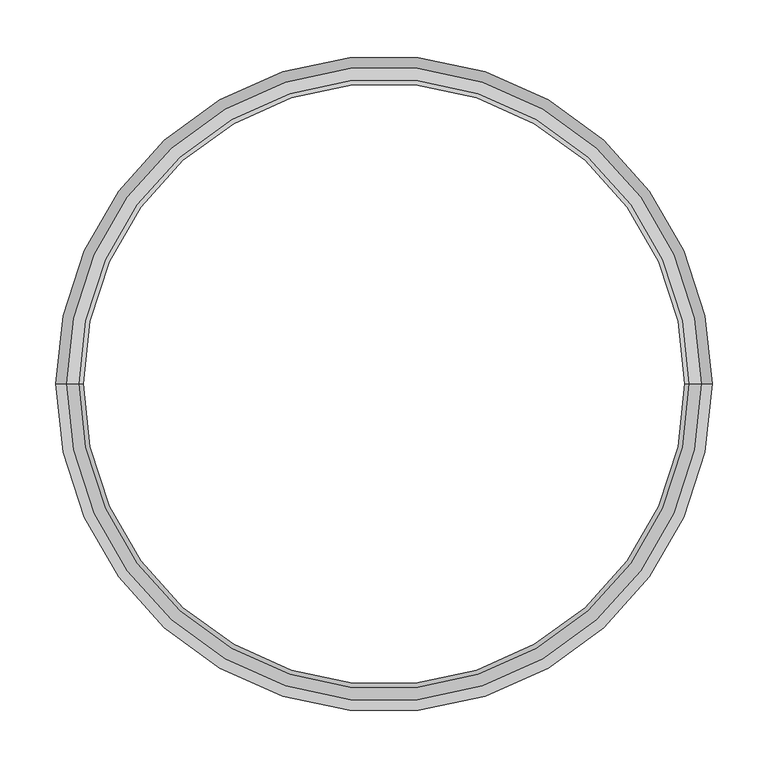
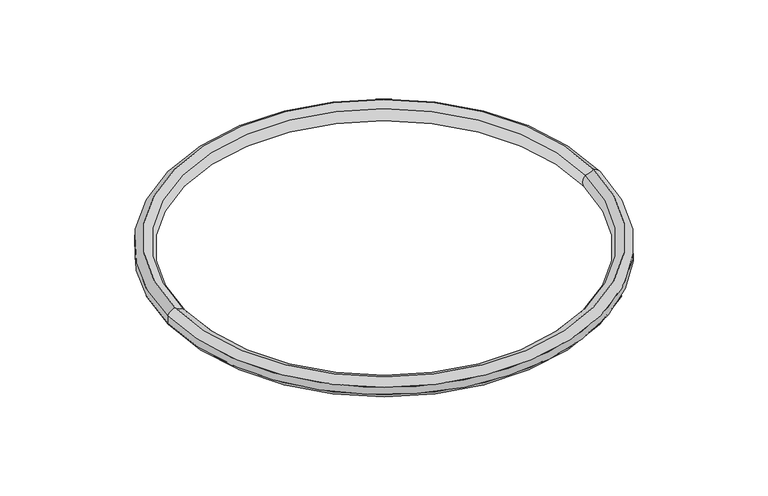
"""IFC4 building model written with IfcOpenShell, lengths in millimetres: proxy geometry, RSK C3 Chamber Ring : RSK C3 C.R."""

from ifc_helpers import new_model, si_unit, point, frame, origin, origin_with_axes, place, context, project, spatial, circle_curve, ellipse_curve, trimmed, source, transform, mapped, element, save
from ifc_brep_helpers import cylinder_surface, revolved_surface, advanced_brep


def generic_models_c2bd2e7c(model_context):
    return source(origin(), model_context, "Body", "AdvancedBrep", [
        advanced_brep(
        [(283.8795111, 0.0, -13.9713776), (273.1723142, 0.0, -8.6245409), (-273.1723142, 0.0, -8.6245409), (-283.8795111, 0.0, -13.9713776), (273.1723142, 0.0, 8.6245409), (283.8795111, 0.0, 13.9713776), (-283.8795111, 0.0, 13.9713776), (-273.1723142, 0.0, 8.6245409), (293.5, 0.0, -5.2915026), (-293.5, 0.0, -5.2915026), (293.5, 0.0, 5.2915026), (-293.5, 0.0, 5.2915026)],
        [
            (0, 1, circle_curve(frame((270.0, 0.0, -28.3713488), z_axis=(0.0, -1.0, 0.0), x_axis=(1.0, 0.0, 0.0)), 20.0)),
            (1, 2, circle_curve(frame((0.0, 0.0, -8.6245409), z_axis=(0.0, 0.0, 1.0), x_axis=(-1.0, 0.0, 0.0)), 273.1723142)),
            (2, 3, circle_curve(frame((-270.0, 0.0, -28.3713488), z_axis=(0.0, -1.0, 0.0), x_axis=(-1.0, 0.0, 0.0)), 20.0)),
            (3, 0, circle_curve(frame((0.0, 0.0, -13.9713776), z_axis=(0.0, 0.0, -1.0), x_axis=(-1.0, 0.0, 0.0)), 283.8795111)),
            (4, 5, circle_curve(frame((270.0, 0.0, 28.3713488), z_axis=(0.0, -1.0, 0.0), x_axis=(1.0, 0.0, 0.0)), 20.0)),
            (5, 6, circle_curve(frame((0.0, 0.0, 13.9713776), z_axis=(0.0, 0.0, 1.0), x_axis=(-1.0, 0.0, 0.0)), 283.8795111)),
            (6, 7, circle_curve(frame((-270.0, 0.0, 28.3713488), z_axis=(0.0, -1.0, 0.0), x_axis=(-1.0, 0.0, 0.0)), 20.0)),
            (7, 4, circle_curve(frame((0.0, 0.0, 8.6245409), z_axis=(0.0, 0.0, -1.0), x_axis=(-1.0, 0.0, 0.0)), 273.1723142)),
            (1, 4, circle_curve(frame((280.0, 0.0, 0.0), z_axis=(0.0, 1.0, 0.0), x_axis=(1.0, 0.0, 0.0)), 11.0)),
            (7, 2, circle_curve(frame((-280.0, 0.0, 0.0), z_axis=(0.0, 1.0, 0.0), x_axis=(-1.0, 0.0, 0.0)), 11.0)),
            (2, 1, circle_curve(frame((0.0, 0.0, -8.6245409), z_axis=(0.0, 0.0, 1.0), x_axis=(1.0, 0.0, 0.0)), 273.1723142)),
            (0, 3, circle_curve(frame((0.0, 0.0, -13.9713776), z_axis=(0.0, 0.0, -1.0), x_axis=(1.0, 0.0, 0.0)), 283.8795111)),
            (6, 5, circle_curve(frame((0.0, 0.0, 13.9713776), z_axis=(0.0, 0.0, 1.0), x_axis=(1.0, 0.0, 0.0)), 283.8795111)),
            (4, 7, circle_curve(frame((0.0, 0.0, 8.6245409), z_axis=(0.0, 0.0, -1.0), x_axis=(1.0, 0.0, 0.0)), 273.1723142)),
            (8, 0, circle_curve(frame((280.0, 0.0, 0.0), z_axis=(0.0, 1.0, 0.0), x_axis=(1.0, 0.0, 0.0)), 14.5)),
            (3, 9, circle_curve(frame((-280.0, 0.0, 0.0), z_axis=(0.0, 1.0, 0.0), x_axis=(-1.0, 0.0, 0.0)), 14.5)),
            (9, 8, circle_curve(frame((0.0, 0.0, -5.2915026), z_axis=(0.0, 0.0, -1.0), x_axis=(-1.0, 0.0, 0.0)), 293.5)),
            (10, 8),
            (9, 11),
            (11, 10, circle_curve(frame((0.0, 0.0, 5.2915026), z_axis=(0.0, 0.0, -1.0), x_axis=(-1.0, 0.0, 0.0)), 293.5)),
            (5, 10, circle_curve(frame((280.0, 0.0, 0.0), z_axis=(0.0, 1.0, 0.0), x_axis=(1.0, 0.0, 0.0)), 14.5)),
            (11, 6, circle_curve(frame((-280.0, 0.0, 0.0), z_axis=(0.0, 1.0, 0.0), x_axis=(-1.0, 0.0, 0.0)), 14.5)),
            (8, 9, circle_curve(frame((0.0, 0.0, -5.2915026), z_axis=(0.0, 0.0, -1.0), x_axis=(1.0, 0.0, 0.0)), 293.5)),
            (10, 11, circle_curve(frame((0.0, 0.0, 5.2915026), z_axis=(0.0, 0.0, -1.0), x_axis=(1.0, 0.0, 0.0)), 293.5)),
        ],
        [
            revolved_surface(trimmed(ellipse_curve(frame((-270.0, 0.0, -28.3713488), z_axis=(0.0, -1.0, 0.0), x_axis=(-1.0, 0.0, 0.0)), 20.0, 20.0), [point((-273.1723142, 0.0, -8.6245409))], [point((-283.8795111, 0.0, -13.9713776))], True, "CARTESIAN"), (0.0, 0.0, 0.0), (0.0, 0.0, 1.0)),
            revolved_surface(trimmed(ellipse_curve(frame((-270.0, 0.0, 28.3713488), z_axis=(0.0, -1.0, 0.0), x_axis=(-1.0, 0.0, 0.0)), 20.0, 20.0), [point((-283.8795111, 0.0, 13.9713776))], [point((-273.1723142, 0.0, 8.6245409))], True, "CARTESIAN"), (0.0, 0.0, 0.0), (0.0, 0.0, 1.0)),
            revolved_surface(trimmed(ellipse_curve(frame((-280.0, 0.0, 0.0), z_axis=(0.0, 1.0, 0.0), x_axis=(-1.0, 0.0, 0.0)), 11.0, 11.0), [point((-273.1723142, 0.0, 8.6245409))], [point((-273.1723142, 0.0, -8.6245409))], True, "CARTESIAN"), (0.0, 0.0, 0.0), (0.0, 0.0, 1.0)),
            revolved_surface(trimmed(ellipse_curve(frame((270.0, 0.0, -28.3713488), z_axis=(0.0, 1.0, 0.0), x_axis=(1.0, 0.0, 0.0)), 20.0, 20.0), [point((273.1723142, 0.0, -8.6245409))], [point((283.8795111, 0.0, -13.9713776))], True, "CARTESIAN"), (0.0, 0.0, 0.0), (0.0, 0.0, 1.0)),
            revolved_surface(trimmed(ellipse_curve(frame((270.0, 0.0, 28.3713488), z_axis=(0.0, 1.0, 0.0), x_axis=(1.0, 0.0, 0.0)), 20.0, 20.0), [point((283.8795111, 0.0, 13.9713776))], [point((273.1723142, 0.0, 8.6245409))], True, "CARTESIAN"), (0.0, 0.0, 0.0), (0.0, 0.0, 1.0)),
            revolved_surface(trimmed(ellipse_curve(frame((280.0, 0.0, 0.0), z_axis=(0.0, -1.0, 0.0), x_axis=(1.0, 0.0, 0.0)), 11.0, 11.0), [point((273.1723142, 0.0, 8.6245409))], [point((273.1723142, 0.0, -8.6245409))], True, "CARTESIAN"), (0.0, 0.0, 0.0), (0.0, 0.0, 1.0)),
            revolved_surface(trimmed(ellipse_curve(frame((-280.0, 0.0, 0.0), z_axis=(0.0, 1.0, 0.0), x_axis=(-1.0, 0.0, 0.0)), 14.5, 14.5), [point((-283.8795111, 0.0, -13.9713776))], [point((-293.5, 0.0, -5.2915026))], True, "CARTESIAN"), (0.0, 0.0, 0.0), (0.0, 0.0, 1.0)),
            cylinder_surface(frame((0.0, 0.0, 0.0), z_axis=(0.0, 0.0, 1.0), x_axis=(-1.0, 0.0, 0.0)), 293.5),
            revolved_surface(trimmed(ellipse_curve(frame((-280.0, 0.0, 0.0), z_axis=(0.0, 1.0, 0.0), x_axis=(-1.0, 0.0, 0.0)), 14.5, 14.5), [point((-293.5, 0.0, 5.2915026))], [point((-283.8795111, 0.0, 13.9713776))], True, "CARTESIAN"), (0.0, 0.0, 0.0), (0.0, 0.0, 1.0)),
            revolved_surface(trimmed(ellipse_curve(frame((280.0, 0.0, 0.0), z_axis=(0.0, -1.0, 0.0), x_axis=(1.0, 0.0, 0.0)), 14.5, 14.5), [point((283.8795111, 0.0, -13.9713776))], [point((293.5, 0.0, -5.2915026))], True, "CARTESIAN"), (0.0, 0.0, 0.0), (0.0, 0.0, 1.0)),
            cylinder_surface(origin_with_axes(), 293.5),
            revolved_surface(trimmed(ellipse_curve(frame((280.0, 0.0, 0.0), z_axis=(0.0, -1.0, 0.0), x_axis=(1.0, 0.0, 0.0)), 14.5, 14.5), [point((293.5, 0.0, 5.2915026))], [point((283.8795111, 0.0, 13.9713776))], True, "CARTESIAN"), (0.0, 0.0, 0.0), (0.0, 0.0, 1.0)),
        ],
        [
            (0, [[1, 2, 3, 4]]),
            (1, [[5, 6, 7, 8]]),
            (2, [[9, -8, 10, -2]]),
            (3, [[-3, 11, -1, 12]]),
            (4, [[-7, 13, -5, 14]]),
            (5, [[-10, -14, -9, -11]]),
            (6, [[15, -4, 16, 17]]),
            (7, [[18, -17, 19, 20]]),
            (8, [[21, -20, 22, -6]]),
            (9, [[-16, -12, -15, 23]]),
            (10, [[-19, -23, -18, 24]]),
            (11, [[-22, -24, -21, -13]]),
        ],
    ),
    ])


if __name__ == "__main__":
    model = new_model("IFC4")
    model_context = context("Model", 3, world=origin())
    ifc_project = project(units=[si_unit("LENGTHUNIT", "METRE", prefix="MILLI")], contexts=[model_context])
    site = spatial("IfcSite", under=ifc_project)
    building = spatial("IfcBuilding", under=site)
    placement = place(None, origin())
    generic_models_shape = generic_models_c2bd2e7c(model_context)
    element("IfcBuildingElementProxy", 1, Name="RSK C3 Chamber Ring : RSK C3 C.R", ObjectType="RSK C3 Chamber Ring : RSK C3 C.R", at=placement, inside=building, context=model_context, shape_type="MappedRepresentation", body=[
        mapped(generic_models_shape, transform((0.0, 0.0, 0.0), x_axis=(1.0, 0.0, 0.0), y_axis=(0.0, 1.0, 0.0), z_axis=(0.0, 0.0, 1.0))),
    ])
    save(model, "model.ifc")
